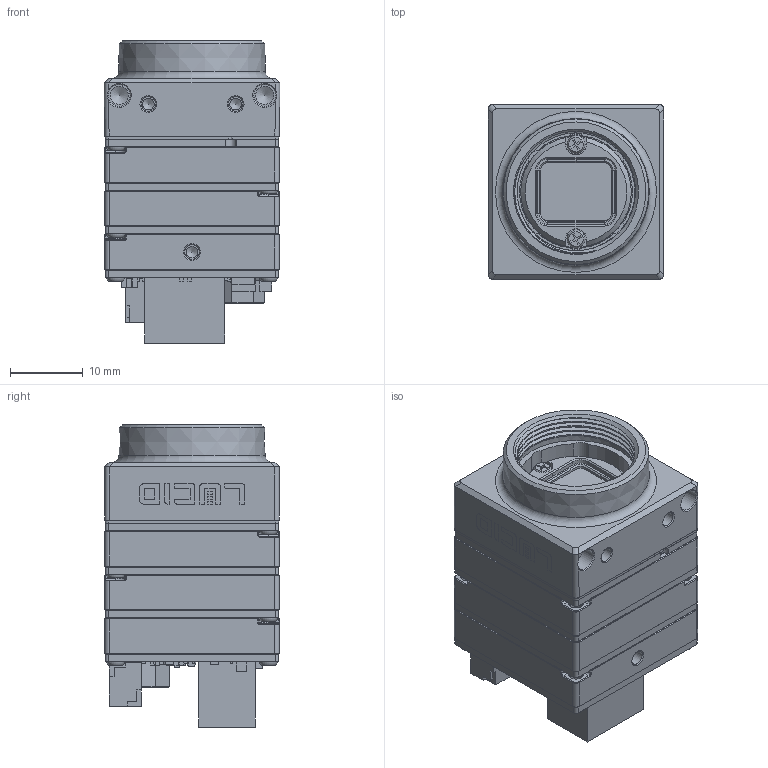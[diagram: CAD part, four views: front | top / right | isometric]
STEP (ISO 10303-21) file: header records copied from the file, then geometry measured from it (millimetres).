
FILE_DESCRIPTION (( 'STEP AP203' ), '1' );
FILE_NAME ('390-990-A_PHX24 NF-MOUNT-IX_CUBE.STEP', '2018-09-22T03:21:53', ( '' ), ( '' ), 'SwSTEP 2.0', 'SolidWorks 2017', '' );
FILE_SCHEMA (( 'CONFIG_CONTROL_DESIGN' ));
Products named in the file (1): 390-990-A_PHX24 NF-MOUNT-IX_CUBE
Bounding box: 24.13 x 24 x 41.53 mm (x, y, z)
Volume: 8418.3 mm3; surface area: 15988.7 mm2
Topology: 69 solids, 69 shells, 4055 faces, 10372 edges, 6392 vertices
Faces by surface type: plane 2356, cylinder 1007, bspline 282, cone 233, torus 111, sphere 66
Full cylindrical faces by diameter (mm): 1 x2, 1.05 x1, 1.1 x2, 1.2 x1, 1.35 x6, 1.6 x5, 1.7 x24, 1.8 x4, 1.9 x22, 2 x5, 2.5 x4, 3 x4, 17.05 x1
Entity records: 125620 total; most frequent: CARTESIAN_POINT 30338, ORIENTED_EDGE 20020, DIRECTION 18935, EDGE_CURVE 10010, LINE 7021, VECTOR 7021, VERTEX_POINT 6363, AXIS2_PLACEMENT_3D 5957
